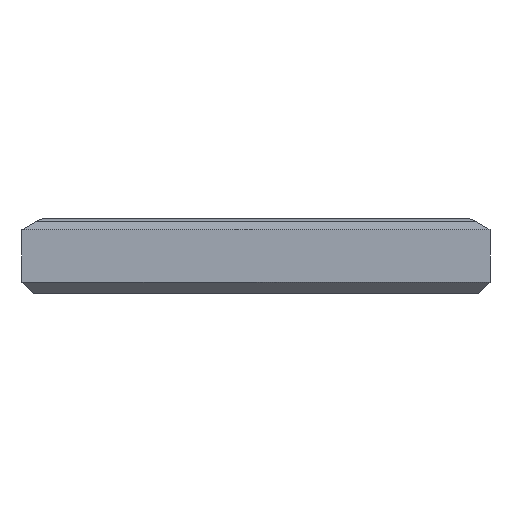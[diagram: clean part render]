
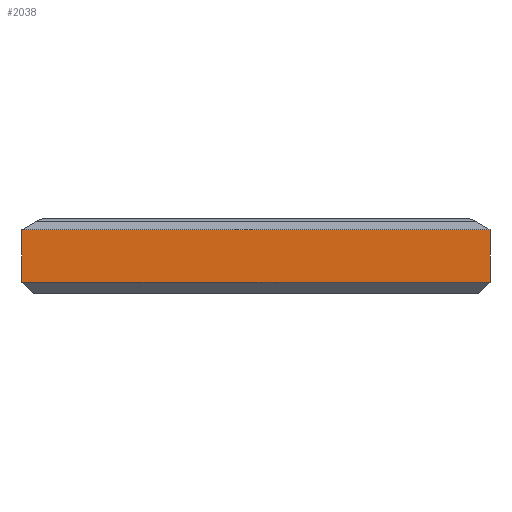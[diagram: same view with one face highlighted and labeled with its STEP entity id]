
A CAD part, front view. The second image highlights one B-rep face of the part: STEP entity #2038.
In plain terms, the highlighted planar face has unit normal (0, -1, 0).
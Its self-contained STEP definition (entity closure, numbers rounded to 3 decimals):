
#274 = EDGE_LOOP ( 'NONE', ( #6439, #3516, #5834, #3004 ) ) ;
#325 = VERTEX_POINT ( 'NONE', #6286 ) ;
#370 = DIRECTION ( 'NONE',  ( 0., 0., 1. ) ) ;
#563 = CARTESIAN_POINT ( 'NONE',  ( 0., 0., 0. ) ) ;
#1083 = CARTESIAN_POINT ( 'NONE',  ( 125., 0., 10. ) ) ;
#1242 = DIRECTION ( 'NONE',  ( 0., 0., -1. ) ) ;
#1977 = PLANE ( 'NONE',  #2886 ) ;
#2038 = ADVANCED_FACE ( 'NONE', ( #5370 ), #1977, .T. ) ;
#2099 = EDGE_CURVE ( 'NONE', #6223, #8305, #4099, .T. ) ;
#2780 = VECTOR ( 'NONE', #5752, 1000. ) ;
#2886 = AXIS2_PLACEMENT_3D ( 'NONE', #563, #5232, #1242 ) ;
#2929 = DIRECTION ( 'NONE',  ( 1., 0., 0. ) ) ;
#3004 = ORIENTED_EDGE ( 'NONE', *, *, #5132, .T. ) ;
#3516 = ORIENTED_EDGE ( 'NONE', *, *, #2099, .F. ) ;
#3759 = VERTEX_POINT ( 'NONE', #6325 ) ;
#3841 = EDGE_CURVE ( 'NONE', #325, #8305, #6114, .T. ) ;
#4099 = LINE ( 'NONE', #6676, #7450 ) ;
#4103 = LINE ( 'NONE', #6318, #6864 ) ;
#4520 = VECTOR ( 'NONE', #8068, 1000. ) ;
#5132 = EDGE_CURVE ( 'NONE', #3759, #325, #7861, .T. ) ;
#5232 = DIRECTION ( 'NONE',  ( 0., -1., 0. ) ) ;
#5370 = FACE_OUTER_BOUND ( 'NONE', #274, .T. ) ;
#5509 = CARTESIAN_POINT ( 'NONE',  ( 62.5, 0., 3. ) ) ;
#5752 = DIRECTION ( 'NONE',  ( 0., 0., 1. ) ) ;
#5834 = ORIENTED_EDGE ( 'NONE', *, *, #7944, .F. ) ;
#6114 = LINE ( 'NONE', #1083, #2780 ) ;
#6223 = VERTEX_POINT ( 'NONE', #7123 ) ;
#6286 = CARTESIAN_POINT ( 'NONE',  ( 125., 0., 3. ) ) ;
#6318 = CARTESIAN_POINT ( 'NONE',  ( 0., 0., 10. ) ) ;
#6325 = CARTESIAN_POINT ( 'NONE',  ( 0., 0., 3. ) ) ;
#6439 = ORIENTED_EDGE ( 'NONE', *, *, #3841, .T. ) ;
#6578 = CARTESIAN_POINT ( 'NONE',  ( 125., 0., 17. ) ) ;
#6676 = CARTESIAN_POINT ( 'NONE',  ( 62.5, 0., 17. ) ) ;
#6864 = VECTOR ( 'NONE', #370, 1000. ) ;
#7123 = CARTESIAN_POINT ( 'NONE',  ( 0., 0., 17. ) ) ;
#7450 = VECTOR ( 'NONE', #2929, 1000. ) ;
#7861 = LINE ( 'NONE', #5509, #4520 ) ;
#7944 = EDGE_CURVE ( 'NONE', #3759, #6223, #4103, .T. ) ;
#8068 = DIRECTION ( 'NONE',  ( 1., 0., 0. ) ) ;
#8305 = VERTEX_POINT ( 'NONE', #6578 ) ;
